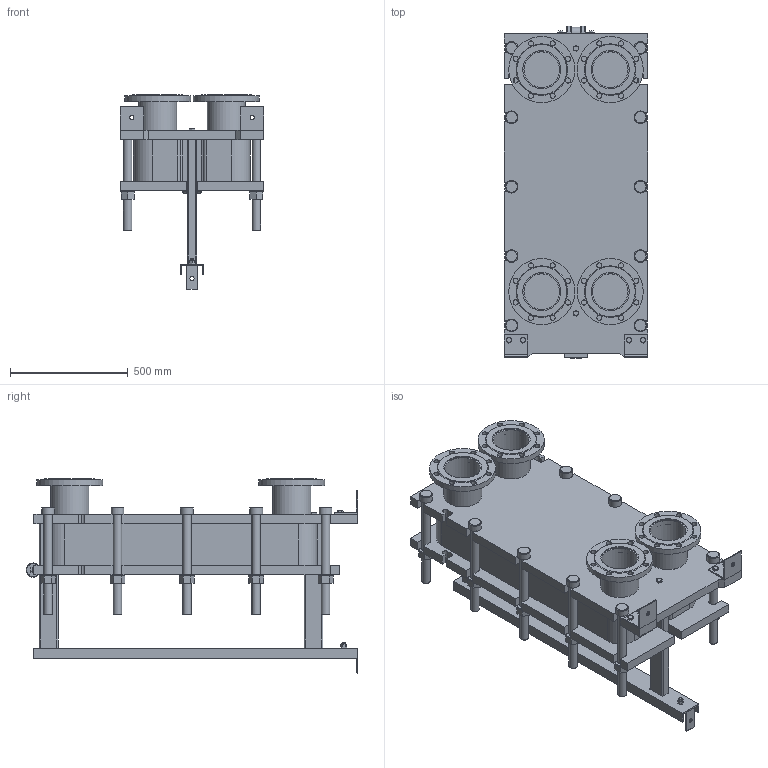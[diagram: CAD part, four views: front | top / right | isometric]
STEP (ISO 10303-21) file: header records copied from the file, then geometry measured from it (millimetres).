
FILE_DESCRIPTION(/* description */ (''),/* implementation_level */ '2;1');
FILE_NAME(/* name */ 'C:\Users\zhuro\Desktop\ENCO\TO\ЭН-041\ЭН-0,5-041-51-1.stp',/* time_stamp */ '2022-06-06T10:53:06+03:00',/* author */ ('zhuro'),/* organization */ (''),/* preprocessor_version */ 'ST-DEVELOPER v18.1',/* originating_system */ 'Autodesk Inventor 2022',/* authorisation */ '');
FILE_SCHEMA (('AUTOMOTIVE_DESIGN { 1 0 10303 214 3 1 1 }'));
Length unit declared in the file: millimetre
Products named in the file (1): ЭН-0,5-041-51-1
Bounding box: 610 x 1406.5 x 822.5 mm (x, y, z)
Volume: 175990635.7 mm3; surface area: 7944101.3 mm2
Topology: 52 solids, 52 shells, 711 faces, 1696 edges, 1094 vertices
Faces by surface type: plane 487, cylinder 177, cone 41, torus 6
Full cylindrical faces by diameter (mm): 8 x4, 10 x2, 16 x8, 18 x3, 22 x32, 36 x24, 50 x1, 54 x10, 60 x12, 151 x4, 161 x8, 280 x4
Entity records: 22667 total; most frequent: CARTESIAN_POINT 5230, DIRECTION 3644, ORIENTED_EDGE 3392, EDGE_CURVE 1696, AXIS2_PLACEMENT_3D 1272, LINE 1100, VECTOR 1100, VERTEX_POINT 1094
